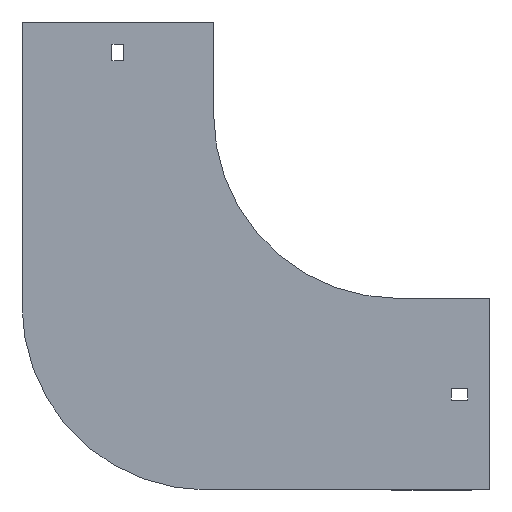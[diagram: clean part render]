
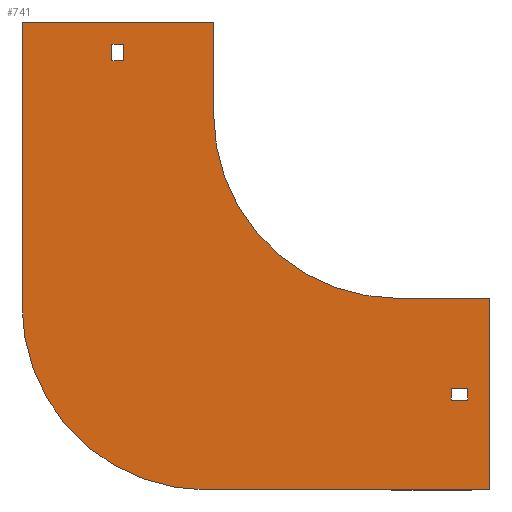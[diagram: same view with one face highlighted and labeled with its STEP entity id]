
A CAD part, front view. The second image highlights one B-rep face of the part: STEP entity #741.
In plain terms, the highlighted planar face has unit normal (0, -1, 0).
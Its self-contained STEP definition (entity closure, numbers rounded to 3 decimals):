
#14 = CARTESIAN_POINT ( 'NONE',  ( 29., 0., -148.75 ) ) ;
#21 = CARTESIAN_POINT ( 'NONE',  ( 0., 0., -100. ) ) ;
#37 = ORIENTED_EDGE ( 'NONE', *, *, #946, .F. ) ;
#43 = VERTEX_POINT ( 'NONE', #600 ) ;
#61 = VERTEX_POINT ( 'NONE', #234 ) ;
#62 = VERTEX_POINT ( 'NONE', #1300 ) ;
#68 = EDGE_CURVE ( 'NONE', #1343, #252, #787, .T. ) ;
#86 = EDGE_CURVE ( 'NONE', #62, #1038, #496, .T. ) ;
#97 = LINE ( 'NONE', #303, #785 ) ;
#99 = DIRECTION ( 'NONE',  ( -1., 0., 0. ) ) ;
#117 = CARTESIAN_POINT ( 'NONE',  ( -204., 0., -104. ) ) ;
#119 = CARTESIAN_POINT ( 'NONE',  ( -155.25, 0., 29. ) ) ;
#122 = DIRECTION ( 'NONE',  ( 0., 0., 1. ) ) ;
#128 = EDGE_CURVE ( 'NONE', #1236, #1276, #982, .T. ) ;
#167 = CARTESIAN_POINT ( 'NONE',  ( -104., 0., -104. ) ) ;
#172 = EDGE_CURVE ( 'NONE', #43, #362, #97, .T. ) ;
#177 = CARTESIAN_POINT ( 'NONE',  ( -100., 0., 50. ) ) ;
#194 = EDGE_CURVE ( 'NONE', #362, #1343, #403, .T. ) ;
#200 = VECTOR ( 'NONE', #465, 1000. ) ;
#203 = LINE ( 'NONE', #1059, #224 ) ;
#214 = FACE_BOUND ( 'NONE', #328, .T. ) ;
#224 = VECTOR ( 'NONE', #99, 1000. ) ;
#234 = CARTESIAN_POINT ( 'NONE',  ( -100., 0., 0. ) ) ;
#243 = DIRECTION ( 'NONE',  ( 0., 0., -1. ) ) ;
#251 = CARTESIAN_POINT ( 'NONE',  ( 38., 0., -155.25 ) ) ;
#252 = VERTEX_POINT ( 'NONE', #119 ) ;
#253 = CARTESIAN_POINT ( 'NONE',  ( -204., 0., 50. ) ) ;
#271 = DIRECTION ( 'NONE',  ( 0., 1., 0. ) ) ;
#272 = CARTESIAN_POINT ( 'NONE',  ( 50., 0., -100. ) ) ;
#274 = EDGE_LOOP ( 'NONE', ( #1349, #331, #763, #37, #489, #824, #1359, #1128 ) ) ;
#279 = DIRECTION ( 'NONE',  ( -1., 0., 0. ) ) ;
#295 = VERTEX_POINT ( 'NONE', #685 ) ;
#303 = CARTESIAN_POINT ( 'NONE',  ( -155.25, 0., 38. ) ) ;
#314 = DIRECTION ( 'NONE',  ( 0., -1., 0. ) ) ;
#318 = VECTOR ( 'NONE', #576, 1000. ) ;
#319 = DIRECTION ( 'NONE',  ( 0., 0., -1. ) ) ;
#325 = ORIENTED_EDGE ( 'NONE', *, *, #1321, .F. ) ;
#328 = EDGE_LOOP ( 'NONE', ( #1249, #1133, #422, #325 ) ) ;
#331 = ORIENTED_EDGE ( 'NONE', *, *, #1050, .F. ) ;
#347 = DIRECTION ( 'NONE',  ( 0., 0., 1. ) ) ;
#360 = LINE ( 'NONE', #788, #577 ) ;
#362 = VERTEX_POINT ( 'NONE', #1315 ) ;
#367 = VECTOR ( 'NONE', #411, 1000. ) ;
#370 = ORIENTED_EDGE ( 'NONE', *, *, #68, .T. ) ;
#372 = EDGE_CURVE ( 'NONE', #1384, #295, #871, .T. ) ;
#397 = DIRECTION ( 'NONE',  ( 1., 0., 0. ) ) ;
#398 = VERTEX_POINT ( 'NONE', #14 ) ;
#400 = LINE ( 'NONE', #1241, #488 ) ;
#403 = LINE ( 'NONE', #413, #1295 ) ;
#411 = DIRECTION ( 'NONE',  ( 0., 0., 1. ) ) ;
#413 = CARTESIAN_POINT ( 'NONE',  ( -148.75, 0., 29. ) ) ;
#414 = PLANE ( 'NONE',  #880 ) ;
#421 = DIRECTION ( 'NONE',  ( 1., 0., 0. ) ) ;
#422 = ORIENTED_EDGE ( 'NONE', *, *, #1173, .F. ) ;
#465 = DIRECTION ( 'NONE',  ( 1., 0., 0. ) ) ;
#488 = VECTOR ( 'NONE', #614, 1000. ) ;
#489 = ORIENTED_EDGE ( 'NONE', *, *, #128, .F. ) ;
#496 = CIRCLE ( 'NONE', #826, 100. ) ;
#516 = EDGE_CURVE ( 'NONE', #252, #43, #658, .T. ) ;
#519 = VECTOR ( 'NONE', #243, 1000. ) ;
#533 = ORIENTED_EDGE ( 'NONE', *, *, #194, .T. ) ;
#550 = CARTESIAN_POINT ( 'NONE',  ( 0., 0., 0. ) ) ;
#558 = CARTESIAN_POINT ( 'NONE',  ( 50., 0., -100. ) ) ;
#571 = CARTESIAN_POINT ( 'NONE',  ( 29., 0., -155.25 ) ) ;
#575 = DIRECTION ( 'NONE',  ( 1., 0., 0. ) ) ;
#576 = DIRECTION ( 'NONE',  ( 0., 0., 1. ) ) ;
#577 = VECTOR ( 'NONE', #998, 1000. ) ;
#584 = EDGE_CURVE ( 'NONE', #1060, #943, #717, .T. ) ;
#600 = CARTESIAN_POINT ( 'NONE',  ( -155.25, 0., 38. ) ) ;
#614 = DIRECTION ( 'NONE',  ( -1., 0., 0. ) ) ;
#620 = DIRECTION ( 'NONE',  ( 0., 0., -1. ) ) ;
#658 = LINE ( 'NONE', #874, #318 ) ;
#685 = CARTESIAN_POINT ( 'NONE',  ( -100., 0., 50. ) ) ;
#717 = LINE ( 'NONE', #816, #367 ) ;
#720 = VECTOR ( 'NONE', #575, 1000. ) ;
#741 = ADVANCED_FACE ( 'NONE', ( #859, #1291, #214 ), #414, .T. ) ;
#752 = VECTOR ( 'NONE', #397, 1000. ) ;
#763 = ORIENTED_EDGE ( 'NONE', *, *, #86, .F. ) ;
#785 = VECTOR ( 'NONE', #421, 1000. ) ;
#786 = CARTESIAN_POINT ( 'NONE',  ( 0., 0., 0. ) ) ;
#787 = LINE ( 'NONE', #1244, #1393 ) ;
#788 = CARTESIAN_POINT ( 'NONE',  ( 29., 0., -155.25 ) ) ;
#816 = CARTESIAN_POINT ( 'NONE',  ( 38., 0., -155.25 ) ) ;
#824 = ORIENTED_EDGE ( 'NONE', *, *, #1125, .F. ) ;
#825 = EDGE_CURVE ( 'NONE', #61, #995, #1073, .T. ) ;
#826 = AXIS2_PLACEMENT_3D ( 'NONE', #167, #271, #122 ) ;
#859 = FACE_BOUND ( 'NONE', #975, .T. ) ;
#871 = LINE ( 'NONE', #253, #720 ) ;
#874 = CARTESIAN_POINT ( 'NONE',  ( -155.25, 0., 29. ) ) ;
#875 = DIRECTION ( 'NONE',  ( 0., -1., 0. ) ) ;
#880 = AXIS2_PLACEMENT_3D ( 'NONE', #550, #314, #966 ) ;
#917 = CARTESIAN_POINT ( 'NONE',  ( 29., 0., -155.25 ) ) ;
#943 = VERTEX_POINT ( 'NONE', #1171 ) ;
#946 = EDGE_CURVE ( 'NONE', #1276, #62, #203, .T. ) ;
#966 = DIRECTION ( 'NONE',  ( 0., 0., -1. ) ) ;
#974 = LINE ( 'NONE', #1102, #1332 ) ;
#975 = EDGE_LOOP ( 'NONE', ( #1132, #1267, #533, #370 ) ) ;
#980 = DIRECTION ( 'NONE',  ( 0., 0., -1. ) ) ;
#982 = LINE ( 'NONE', #558, #519 ) ;
#995 = VERTEX_POINT ( 'NONE', #1226 ) ;
#998 = DIRECTION ( 'NONE',  ( 0., 0., -1. ) ) ;
#1001 = VERTEX_POINT ( 'NONE', #571 ) ;
#1036 = VECTOR ( 'NONE', #620, 1000. ) ;
#1038 = VERTEX_POINT ( 'NONE', #117 ) ;
#1040 = CARTESIAN_POINT ( 'NONE',  ( -148.75, 0., 29. ) ) ;
#1050 = EDGE_CURVE ( 'NONE', #1038, #1384, #974, .T. ) ;
#1059 = CARTESIAN_POINT ( 'NONE',  ( 50., 0., -204. ) ) ;
#1060 = VERTEX_POINT ( 'NONE', #251 ) ;
#1073 = CIRCLE ( 'NONE', #1121, 100. ) ;
#1102 = CARTESIAN_POINT ( 'NONE',  ( -204., 0., -104. ) ) ;
#1121 = AXIS2_PLACEMENT_3D ( 'NONE', #786, #875, #980 ) ;
#1125 = EDGE_CURVE ( 'NONE', #995, #1236, #1337, .T. ) ;
#1128 = ORIENTED_EDGE ( 'NONE', *, *, #1339, .F. ) ;
#1132 = ORIENTED_EDGE ( 'NONE', *, *, #516, .T. ) ;
#1133 = ORIENTED_EDGE ( 'NONE', *, *, #1210, .F. ) ;
#1138 = LINE ( 'NONE', #177, #1036 ) ;
#1171 = CARTESIAN_POINT ( 'NONE',  ( 38., 0., -148.75 ) ) ;
#1172 = CARTESIAN_POINT ( 'NONE',  ( -204., 0., 50. ) ) ;
#1173 = EDGE_CURVE ( 'NONE', #398, #1001, #360, .T. ) ;
#1210 = EDGE_CURVE ( 'NONE', #1001, #1060, #1355, .T. ) ;
#1226 = CARTESIAN_POINT ( 'NONE',  ( 0., 0., -100. ) ) ;
#1236 = VERTEX_POINT ( 'NONE', #272 ) ;
#1241 = CARTESIAN_POINT ( 'NONE',  ( 29., 0., -148.75 ) ) ;
#1244 = CARTESIAN_POINT ( 'NONE',  ( -155.25, 0., 29. ) ) ;
#1249 = ORIENTED_EDGE ( 'NONE', *, *, #584, .F. ) ;
#1267 = ORIENTED_EDGE ( 'NONE', *, *, #172, .T. ) ;
#1273 = CARTESIAN_POINT ( 'NONE',  ( 50., 0., -204. ) ) ;
#1276 = VERTEX_POINT ( 'NONE', #1273 ) ;
#1291 = FACE_OUTER_BOUND ( 'NONE', #274, .T. ) ;
#1295 = VECTOR ( 'NONE', #319, 1000. ) ;
#1300 = CARTESIAN_POINT ( 'NONE',  ( -104., 0., -204. ) ) ;
#1315 = CARTESIAN_POINT ( 'NONE',  ( -148.75, 0., 38. ) ) ;
#1321 = EDGE_CURVE ( 'NONE', #943, #398, #400, .T. ) ;
#1332 = VECTOR ( 'NONE', #347, 1000. ) ;
#1337 = LINE ( 'NONE', #21, #200 ) ;
#1339 = EDGE_CURVE ( 'NONE', #295, #61, #1138, .T. ) ;
#1343 = VERTEX_POINT ( 'NONE', #1040 ) ;
#1349 = ORIENTED_EDGE ( 'NONE', *, *, #372, .F. ) ;
#1355 = LINE ( 'NONE', #917, #752 ) ;
#1359 = ORIENTED_EDGE ( 'NONE', *, *, #825, .F. ) ;
#1384 = VERTEX_POINT ( 'NONE', #1172 ) ;
#1393 = VECTOR ( 'NONE', #279, 1000. ) ;
